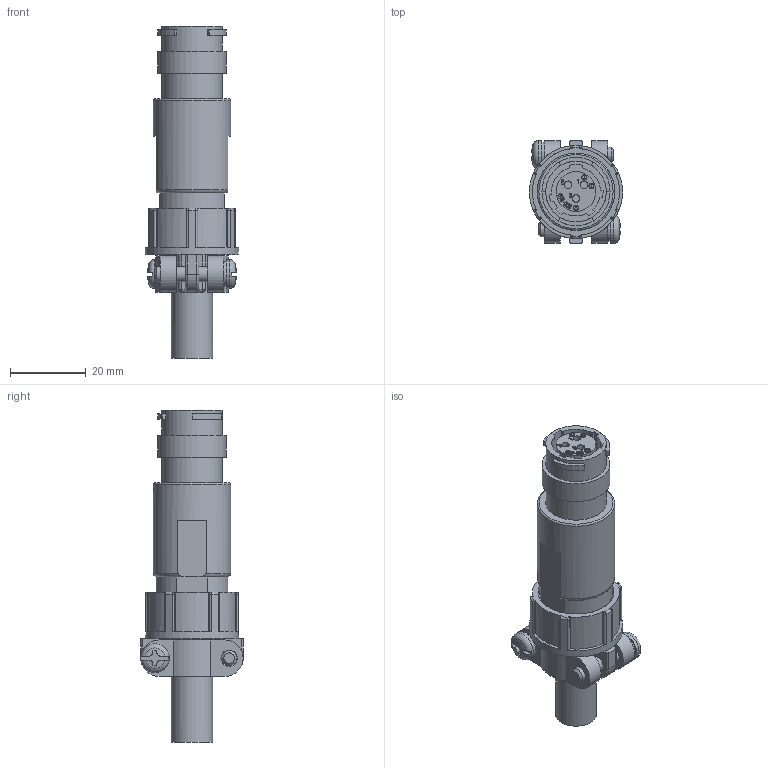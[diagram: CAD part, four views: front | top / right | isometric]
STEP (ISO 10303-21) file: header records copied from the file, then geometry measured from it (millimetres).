
FILE_DESCRIPTION (( 'STEP AP203' ), '1' );
FILE_NAME ('WEBCR1303F-1-D(R1).STEP', '2021-07-30T04:18:51', ( '' ), ( '' ), 'SwSTEP 2.0', 'SolidWorks 2018', '' );
FILE_SCHEMA (( 'CONFIG_CONTROL_DESIGN' ));
Length unit declared in the file: millimetre
Products named in the file (1): WEBCR1303F-1-D(R1)
Bounding box: 24.6 x 27.2 x 87.62 mm (x, y, z)
Volume: 17339.6 mm3; surface area: 12844.6 mm2
Topology: 1 solids, 1 shells, 650 faces, 1721 edges, 1111 vertices
Faces by surface type: plane 284, bspline 172, cylinder 143, sphere 20, torus 16, cone 15
Full cylindrical faces by diameter (mm): 1.2 x4, 1.4 x4, 1.7 x3, 2 x3, 2.4 x3, 2.8 x2, 4 x4, 4.3 x4, 7.6 x2, 9 x2, 10 x1, 10.3 x1, 10.5 x1, 10.85 x1, 11 x1, 12.2 x1, 12.4 x1, 15.96 x1, 16 x1, 18 x1, 19.5 x1, 20.4 x1, 24.6 x1
Entity records: 26626 total; most frequent: CARTESIAN_POINT 11840, ORIENTED_EDGE 3236, DIRECTION 2558, EDGE_CURVE 1618, VERTEX_POINT 1086, LINE 860, VECTOR 860, AXIS2_PLACEMENT_3D 849
